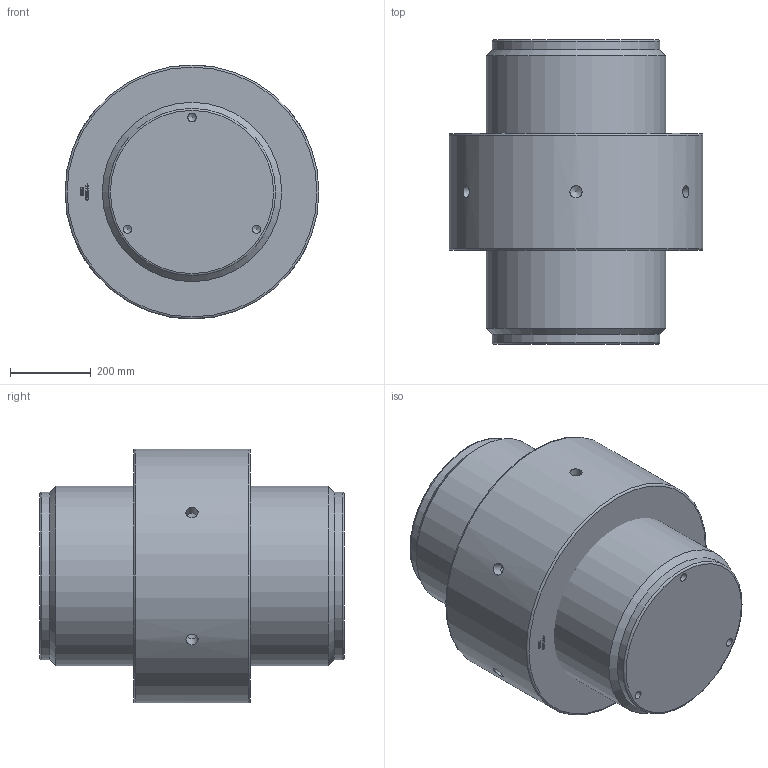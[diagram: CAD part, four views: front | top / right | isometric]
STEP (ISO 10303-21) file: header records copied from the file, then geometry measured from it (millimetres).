
FILE_DESCRIPTION(/* description */ (''),/* implementation_level */ '2;1');
FILE_NAME(/* name */ 'F:\Clienti LS\Redaelli\CYT\CYT\ARRNGEMENT\CYT144 61 061 0.stp',/* time_stamp */ '2021-05-09T09:00:06+02:00',/* author */ ('ranca'),/* organization */ (''),/* preprocessor_version */ 'ST-DEVELOPER v16.13',/* originating_system */ 'Autodesk Inventor 2018',/* authorisation */ '');
FILE_SCHEMA (('AUTOMOTIVE_DESIGN { 1 0 10303 214 3 1 1 }'));
Length unit declared in the file: millimetre
Products named in the file (3): CYT012-61-061-0; CYT012-61-061-0_1; CYT012-61-061-0_DADO
Assembly tree (2 placements, depth 2):
  CYT012-61-061-0
    CYT012-61-061-0_1
    CYT012-61-061-0_DADO
Bounding box: 630 x 756 x 630 mm (x, y, z)
Volume: 162624919.3 mm3; surface area: 2648340.6 mm2
Topology: 2 solids, 2 shells, 334 faces, 908 edges, 604 vertices
Faces by surface type: plane 179, bspline 126, cylinder 14, cone 11, torus 4
Full cylindrical faces by diameter (mm): 20.752 x3, 30 x6, 415 x2, 438.505 x1, 445 x1, 630 x1
Entity records: 11086 total; most frequent: CARTESIAN_POINT 3638, ORIENTED_EDGE 1726, DIRECTION 1051, EDGE_CURVE 863, VERTEX_POINT 588, LINE 573, VECTOR 573, EDGE_LOOP 391
